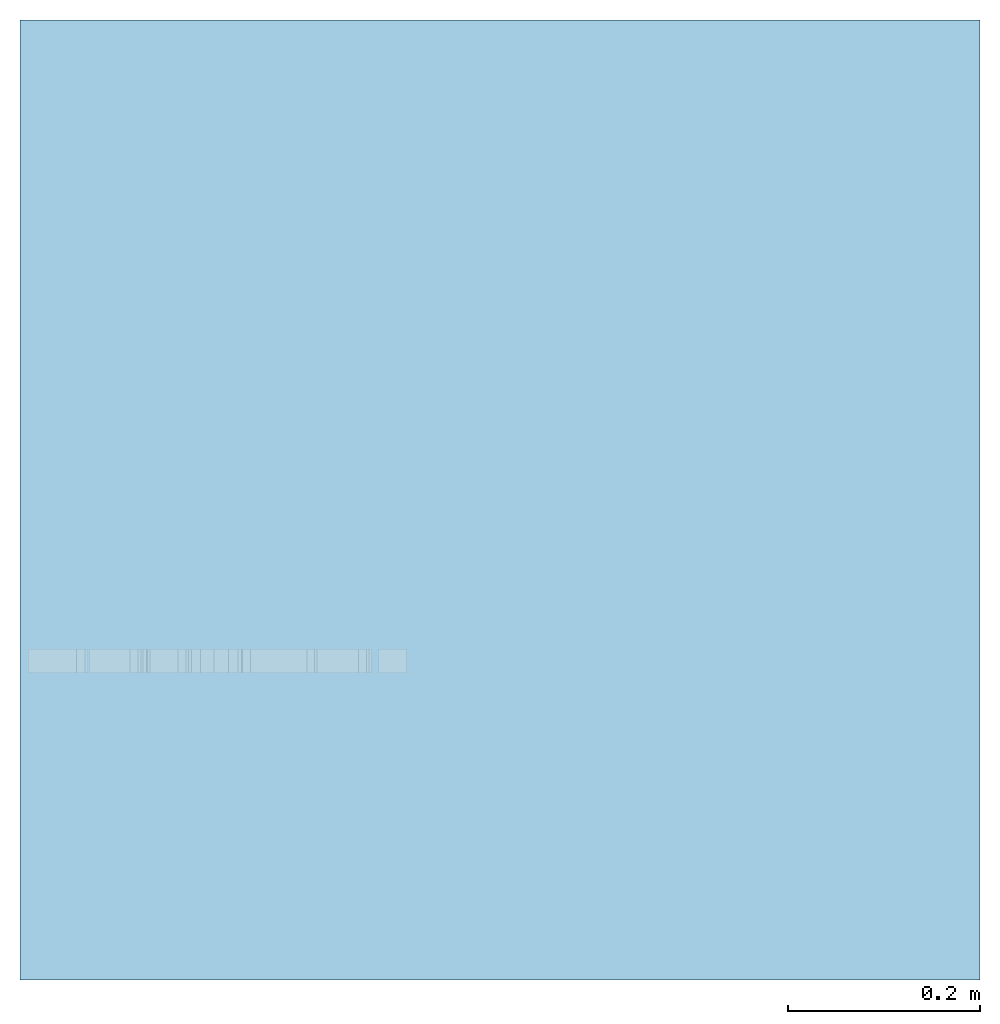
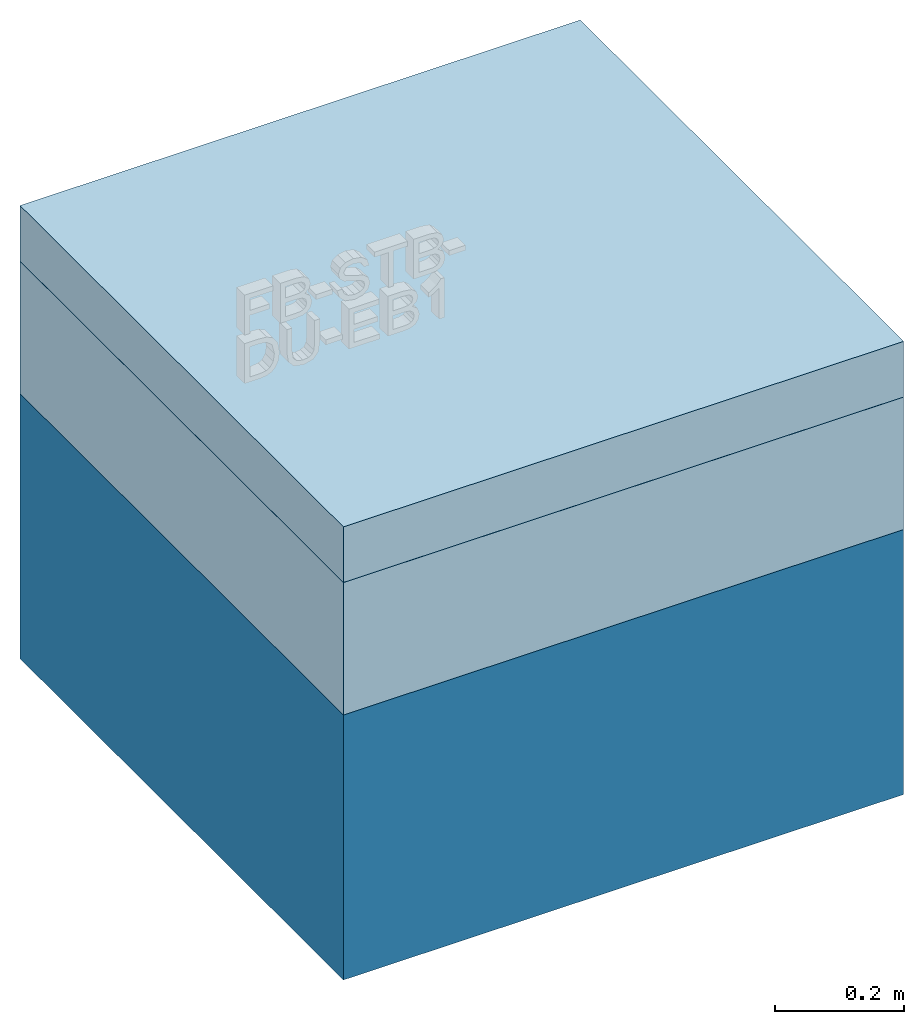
# Not in any storey, part 1 of 2: 3 slabs, 1 element without a shape of its own.
"""IFC4 model written with IfcOpenShell, lengths in metres."""

from ifc_helpers import new_model, entity, si_unit, converted_unit, derived_unit, direction, frame, origin, place, context, subcontext, project, spatial, indexed_curve, outline, extrude, material, constituent, constituent_set, type_object, element, aggregate, save


model = new_model("IFC4")

# Units and contexts
model_context = context("Model", 3, precision=1e-05, world=origin(), true_north=direction((6.123031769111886e-17, 1.0)))
body_context = subcontext(model_context, "Body", "Model", "MODEL_VIEW")
ifc_project = project(units=[si_unit("LENGTHUNIT", "METRE"), si_unit("AREAUNIT", "SQUARE_METRE"), si_unit("VOLUMEUNIT", "CUBIC_METRE"), converted_unit("PLANEANGLEUNIT", "DEGREE", entity("IfcRatioMeasure", 0.017453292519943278), si_unit("PLANEANGLEUNIT", "RADIAN"), dimensions=[0, 0, 0, 0, 0, 0, 0]), si_unit("MASSUNIT", "GRAM", prefix="KILO"), derived_unit("MASSDENSITYUNIT", [(si_unit("MASSUNIT", "GRAM", prefix="KILO"), 1), (si_unit("LENGTHUNIT", "METRE"), -3)]), derived_unit("IONCONCENTRATIONUNIT", [(si_unit("MASSUNIT", "GRAM", prefix="KILO"), 1), (si_unit("LENGTHUNIT", "METRE"), -3)]), derived_unit("MOMENTOFINERTIAUNIT", [(si_unit("LENGTHUNIT", "METRE"), 4)]), si_unit("TIMEUNIT", "SECOND"), si_unit("FREQUENCYUNIT", "HERTZ"), si_unit("THERMODYNAMICTEMPERATUREUNIT", "DEGREE_CELSIUS"), derived_unit("THERMALTRANSMITTANCEUNIT", [(si_unit("MASSUNIT", "GRAM", prefix="KILO"), 1), (si_unit("THERMODYNAMICTEMPERATUREUNIT", "KELVIN"), -1), (si_unit("TIMEUNIT", "SECOND"), -3)]), derived_unit("THERMALCONDUCTANCEUNIT", [(si_unit("MASSUNIT", "GRAM", prefix="KILO"), 1), (si_unit("THERMODYNAMICTEMPERATUREUNIT", "KELVIN"), -1), (si_unit("TIMEUNIT", "SECOND"), -3), (si_unit("LENGTHUNIT", "METRE"), 1)]), derived_unit("VOLUMETRICFLOWRATEUNIT", [(si_unit("LENGTHUNIT", "METRE"), 3), (si_unit("TIMEUNIT", "SECOND"), -1)]), derived_unit("MASSFLOWRATEUNIT", [(si_unit("MASSUNIT", "GRAM", prefix="KILO"), 1), (si_unit("TIMEUNIT", "SECOND"), -1)]), derived_unit("ROTATIONALFREQUENCYUNIT", [(si_unit("TIMEUNIT", "SECOND"), -1)]), si_unit("ELECTRICCURRENTUNIT", "AMPERE"), si_unit("ELECTRICVOLTAGEUNIT", "VOLT"), si_unit("POWERUNIT", "WATT"), si_unit("FORCEUNIT", "NEWTON", prefix="KILO"), si_unit("ILLUMINANCEUNIT", "LUX"), si_unit("LUMINOUSFLUXUNIT", "LUMEN"), si_unit("LUMINOUSINTENSITYUNIT", "CANDELA"), derived_unit("USERDEFINED", [(si_unit("MASSUNIT", "GRAM", prefix="KILO"), -1), (si_unit("LENGTHUNIT", "METRE"), -2), (si_unit("TIMEUNIT", "SECOND"), 3), (si_unit("LUMINOUSFLUXUNIT", "LUMEN"), 1)]), derived_unit("USERDEFINED", [(si_unit("MASSUNIT", "GRAM", prefix="KILO"), 1), (si_unit("TIMEUNIT", "SECOND"), -3), (si_unit("LENGTHUNIT", "METRE"), 3), (si_unit("ELECTRICCURRENTUNIT", "AMPERE"), -2)]), derived_unit("SOUNDPOWERUNIT", [(si_unit("MASSUNIT", "GRAM", prefix="KILO"), 1), (si_unit("TIMEUNIT", "SECOND"), -3), (si_unit("LENGTHUNIT", "METRE"), 2)]), derived_unit("SOUNDPRESSUREUNIT", [(si_unit("MASSUNIT", "GRAM", prefix="KILO"), 1), (si_unit("LENGTHUNIT", "METRE"), -1), (si_unit("TIMEUNIT", "SECOND"), -2)]), derived_unit("LINEARVELOCITYUNIT", [(si_unit("LENGTHUNIT", "METRE"), 1), (si_unit("TIMEUNIT", "SECOND"), -1)]), si_unit("PRESSUREUNIT", "PASCAL"), derived_unit("USERDEFINED", [(si_unit("MASSUNIT", "GRAM", prefix="KILO"), 1), (si_unit("LENGTHUNIT", "METRE"), -2), (si_unit("TIMEUNIT", "SECOND"), -2)]), derived_unit("LINEARFORCEUNIT", [(si_unit("MASSUNIT", "GRAM", prefix="KILO"), 1), (si_unit("TIMEUNIT", "SECOND"), -2)]), derived_unit("PLANARFORCEUNIT", [(si_unit("MASSUNIT", "GRAM", prefix="KILO"), 1), (si_unit("LENGTHUNIT", "METRE"), -1), (si_unit("TIMEUNIT", "SECOND"), -2)]), derived_unit("SPECIFICHEATCAPACITYUNIT", [(si_unit("THERMODYNAMICTEMPERATUREUNIT", "KELVIN"), -1), (si_unit("LENGTHUNIT", "METRE"), 2), (si_unit("TIMEUNIT", "SECOND"), -2)]), derived_unit("HEATINGVALUEUNIT", [(si_unit("LENGTHUNIT", "METRE"), 2), (si_unit("TIMEUNIT", "SECOND"), -2)]), derived_unit("VAPORPERMEABILITYUNIT", [(si_unit("LENGTHUNIT", "METRE"), -1), (si_unit("TIMEUNIT", "SECOND"), 1)]), derived_unit("DYNAMICVISCOSITYUNIT", [(si_unit("MASSUNIT", "GRAM", prefix="KILO"), 1), (si_unit("TIMEUNIT", "SECOND"), -1), (si_unit("LENGTHUNIT", "METRE"), -1)]), derived_unit("THERMALEXPANSIONCOEFFICIENTUNIT", [(si_unit("THERMODYNAMICTEMPERATUREUNIT", "KELVIN"), -1)]), derived_unit("MODULUSOFELASTICITYUNIT", [(si_unit("MASSUNIT", "GRAM", prefix="KILO"), 1), (si_unit("LENGTHUNIT", "METRE"), -1), (si_unit("TIMEUNIT", "SECOND"), -2)]), derived_unit("ISOTHERMALMOISTURECAPACITYUNIT", [(si_unit("LENGTHUNIT", "METRE"), 3), (si_unit("MASSUNIT", "GRAM", prefix="KILO"), -1)]), derived_unit("MOISTUREDIFFUSIVITYUNIT", [(si_unit("TIMEUNIT", "SECOND"), -1), (si_unit("LENGTHUNIT", "METRE"), 2)])], contexts=[model_context])

# Site
site_placement = place(None, origin())
site = spatial("IfcSite", under=ifc_project, at=site_placement, Name="Default", CompositionType="ELEMENT")

# Assembly, slabs
ifc_material_1 = material(Name="fbim_18108010_AT_015_Parkettboden")
ifc_constituent_1 = constituent(ifc_material_1, Name="fbim_18108010_AT_015_Parkettboden")
ifc_material_2 = material(Name="fbim_16053507_AT_Trockenestrich_gips", Category="Gipsputz")
ifc_constituent_2 = constituent(ifc_material_2, Name="fbim_16053507_AT_Trockenestrich_gips", Category="Gipsputz")
ifc_material_3 = material(Name="fbim_14100505_AT_Schafwolle")
ifc_constituent_3 = constituent(ifc_material_3, Name="fbim_14100505_AT_Schafwolle")
ifc_material_4 = material(Name="fbim_14104055_AT_040_HF-Trittschalldaemmplatte")
ifc_constituent_4 = constituent(ifc_material_4, Name="fbim_14104055_AT_040_HF-Trittschalldaemmplatte")
ifc_constituent_set_1 = constituent_set(constituents=[ifc_constituent_1, ifc_constituent_2, ifc_constituent_3, ifc_constituent_4], Name="Geschossdecke:fbimSg_Floor_dp_INH_vis_at_NTR_natuREbuilt_FBuD_GK3_o_50cm")
assembly_placement = place(site_placement, origin())
assembly = element("IfcElementAssembly", 1, at=assembly_placement, inside=site, material=ifc_constituent_set_1, Name="Geschossdecken Baugruppe:fbimSg_Footing_bc_WOD_vis_at_NTR_natuREbuilt_FB-STB-DU-EB1_GK3_86cm", ObjectType="Geschossdecken Baugruppe:fbimSg_Footing_bc_WOD_vis_at_NTR_natuREbuilt_FB-STB-DU-EB1_GK3_86cm", AssemblyPlace="NOTDEFINED", PredefinedType="USERDEFINED")
slab_type_1 = type_object("IfcSlabType", Name="Geschossdecke:fbimSg_Floor_dp_INH_vis_at_NTR_natuREbuilt_FBuD_GK3_o_50cm", PredefinedType="FLOOR", material=ifc_constituent_set_1)
slab_1_placement = place(assembly_placement, origin())
slab_1 = element("IfcSlab", 2, at=slab_1_placement, type_object=slab_type_1, Name="Geschossdecke:fbimSg_Floor_dp_INH_vis_at_NTR_natuREbuilt_FBuD_GK3_o_50cm", ObjectType="Geschossdecke:fbimSg_Floor_dp_INH_vis_at_NTR_natuREbuilt_FBuD_GK3_o_50cm", PredefinedType="FLOOR", context=body_context, shape_type="SweptSolid", body=[
    extrude(outline(indexed_curve([(-0.49999999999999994, -0.49999999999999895), (0.49999999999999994, -0.5000000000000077), (0.5, 0.49999999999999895), (-0.5, 0.49999999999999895), (-0.49999999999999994, -0.49999999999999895)], self_intersect=False)), frame((-0.08652267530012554, 43.0146922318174, 1.9076690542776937), z_axis=(0.0, 0.0, 1.0), x_axis=(-1.0, 0.0, 0.0)), (0.0, 0.0, 1.0), 0.015000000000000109),
    extrude(outline(indexed_curve([(-0.49999999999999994, -0.49999999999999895), (0.49999999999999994, -0.49999999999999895), (0.5, 0.49999999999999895), (-0.5, 0.49999999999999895), (-0.49999999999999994, -0.49999999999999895)], self_intersect=False)), frame((-0.08652267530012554, 43.0146922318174, 1.887669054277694), z_axis=(0.0, 0.0, 1.0), x_axis=(-1.0, 0.0, 0.0)), (0.0, 0.0, 1.0), 0.019999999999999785),
    extrude(outline(indexed_curve([(-0.49999999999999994, -0.49999999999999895), (0.49999999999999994, -0.49999999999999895), (0.5, 0.49999999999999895), (-0.5, 0.49999999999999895), (-0.49999999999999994, -0.49999999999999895)], self_intersect=False)), frame((-0.08652267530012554, 43.0146922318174, 1.837669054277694), z_axis=(0.0, 0.0, 1.0), x_axis=(-1.0, 0.0, 0.0)), (0.0, 0.0, 1.0), 0.05),
    extrude(outline(indexed_curve([(-0.49999999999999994, -0.49999999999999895), (0.49999999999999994, -0.49999999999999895), (0.5, 0.49999999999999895), (-0.5, 0.49999999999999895), (-0.49999999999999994, -0.49999999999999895)], self_intersect=False)), frame((-0.08652267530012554, 43.0146922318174, 1.8176690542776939), z_axis=(0.0, 0.0, 1.0), x_axis=(-1.0, 0.0, 0.0)), (0.0, 0.0, 1.0), 0.020000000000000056),
])
ifc_material_5 = material(Name="fbim_12050505_AT_025_Stahlbeton_C25_30_GK32")
slab_type_2 = type_object("IfcSlabType", Name="Geschossdecke:fbimSg_Slab_sb_CNR_vis_at_NTR_natuREbuilt_FBuD_GK3_k_25cm", PredefinedType="FLOOR", material=ifc_material_5)
slab_2_placement = place(assembly_placement, origin())
slab_2 = element("IfcSlab", 3, at=slab_2_placement, type_object=slab_type_2, material=ifc_material_5, Name="Geschossdecke:fbimSg_Slab_sb_CNR_vis_at_NTR_natuREbuilt_FBuD_GK3_k_25cm", ObjectType="Geschossdecke:fbimSg_Slab_sb_CNR_vis_at_NTR_natuREbuilt_FBuD_GK3_k_25cm", PredefinedType="FLOOR", context=body_context, shape_type="SweptSolid", body=[
    extrude(outline(indexed_curve([(-0.499999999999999, -0.49999999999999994), (0.4999999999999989, -0.5), (0.499999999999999, 0.4999999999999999), (-0.4999999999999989, 0.5000000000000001), (-0.499999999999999, -0.49999999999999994)], self_intersect=False)), frame((-0.08652267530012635, 43.0146922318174, 1.8176690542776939), z_axis=(0.0, 0.0, -1.0), x_axis=(0.0, 1.0, 0.0)), (0.0, 0.0, 1.0), 0.25),
])
ifc_material_6 = material(Name="fbim_14103005_AT_Schaumglasschotter")
ifc_constituent_5 = constituent(ifc_material_6, Name="fbim_14103005_AT_Schaumglasschotter")
ifc_constituent_set_2 = constituent_set(constituents=[ifc_constituent_5], Name="Geschossdecke:fbimSg_Floor_dp_INS_vis_at_NTR_natuREbuilt_FBuD_GK3_u_10,5cm")
slab_type_3 = type_object("IfcSlabType", Name="Geschossdecke:fbimSg_Floor_dp_INS_vis_at_NTR_natuREbuilt_FBuD_GK3_u_10,5cm", PredefinedType="FLOOR", material=ifc_constituent_set_2)
slab_3_placement = place(assembly_placement, origin())
slab_3 = element("IfcSlab", 4, at=slab_3_placement, type_object=slab_type_3, material=ifc_constituent_set_2, Name="Geschossdecke:fbimSg_Floor_dp_INS_vis_at_NTR_natuREbuilt_FBuD_GK3_u_10,5cm", ObjectType="Geschossdecke:fbimSg_Floor_dp_INS_vis_at_NTR_natuREbuilt_FBuD_GK3_u_10,5cm", PredefinedType="FLOOR", context=body_context, shape_type="SweptSolid", body=[
    extrude(outline(indexed_curve([(-0.499999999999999, -0.49999999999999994), (0.4999999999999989, -0.5), (0.499999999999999, 0.4999999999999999), (-0.4999999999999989, 0.5000000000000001), (-0.499999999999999, -0.49999999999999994)], self_intersect=False)), frame((-0.08652267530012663, 43.0146922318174, 1.5676690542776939), z_axis=(0.0, 0.0, -1.0), x_axis=(0.0, 1.0, 0.0)), (0.0, 0.0, 1.0), 0.5),
])
aggregate(assembly, [slab_1, slab_2, slab_3])

save(model, "model.ifc")
